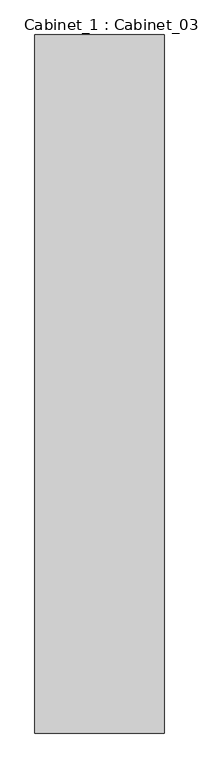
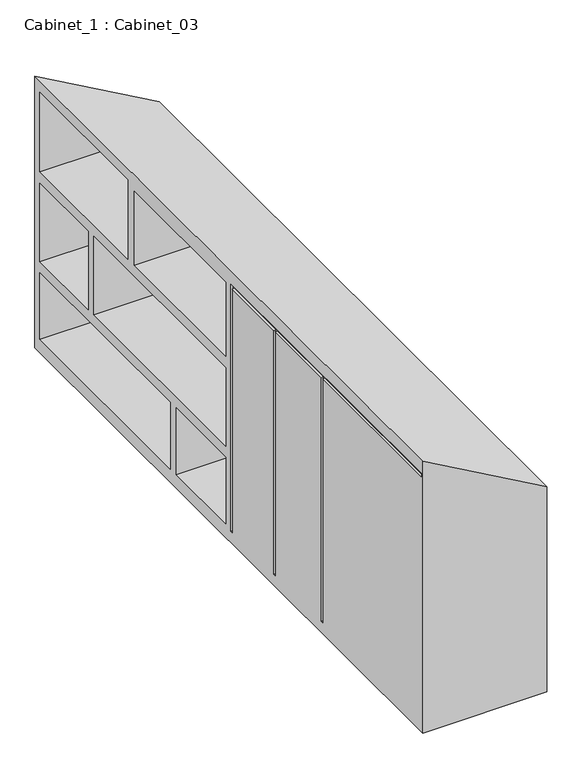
"""IFC4 building model written with IfcOpenShell, lengths in millimetres: furniture geometry, Cabinet_1 : Cabinet_03."""

from ifc_helpers import new_model, si_unit, origin, place, context, project, spatial, faceted_brep, source, transform, mapped, element, save


def cabinet_1_cabinet_03_9e102cc1(model_context):
    return source(origin(), model_context, "Body", "Brep", [
        faceted_brep([(4673.876918, 15572.4983456, 8080.0), (4124.2233206, 15572.4983456, 8080.0), (4124.2233206, 15572.4983456, 9350.9829737), (4673.876918, 15572.4983456, 9038.7362719), (4673.876918, 12600.5978406, 8080.0), (4673.876918, 12600.5978406, 9038.7362719), (4124.2233206, 12600.5978406, 9350.9829737), (4124.2233206, 12600.5978406, 8080.0), (4124.2233206, 15534.1837324, 8454.7571016), (4124.2233206, 14534.9242092, 8454.7571016), (4124.2233206, 14534.9242092, 8142.0700894), (4124.2233206, 15534.1837324, 8142.0700894), (4124.2233206, 15534.1837324, 8873.3468357), (4124.2233206, 15163.092149, 8873.3468357), (4124.2233206, 15163.092149, 8506.2975993), (4124.2233206, 15534.1837324, 8506.2975993), (4124.2233206, 15123.092149, 8873.3468357), (4124.2233206, 14111.7113185, 8873.3468357), (4124.2233206, 14111.7113185, 8506.2975993), (4124.2233206, 15123.092149, 8506.2975993), (4124.2233206, 14490.9887071, 8454.7571016), (4124.2233206, 14111.7113185, 8454.7571016), (4124.2233206, 14111.7113185, 8142.0700894), (4124.2233206, 14490.9887071, 8142.0700894), (4124.2233206, 14812.8456394, 8926.633347), (4124.2233206, 14812.8456394, 9273.3829622), (4124.2233206, 14111.7113185, 9273.3829622), (4124.2233206, 14111.7113185, 8926.633347), (4124.2233206, 15534.1837324, 8926.633347), (4124.2233206, 15534.1837324, 9298.3829622), (4124.2233206, 14859.196009, 9298.3829622), (4124.2233206, 14859.196009, 8926.633347), (4124.2233206, 14060.9887071, 8131.5557566), (4124.2233206, 14070.9887071, 8131.5557566), (4124.2233206, 14070.9887071, 9286.5557566), (4124.2233206, 12613.7546427, 9286.5557566), (4124.2233206, 12613.7546427, 9270.6119704), (4124.2233206, 13368.4887071, 9270.6119704), (4124.2233206, 13368.4887071, 8131.5557566), (4124.2233206, 13378.4887071, 8131.5557566), (4124.2233206, 13378.4887071, 9270.6119704), (4124.2233206, 13730.9887071, 9270.6119704), (4124.2233206, 13730.9887071, 8131.5557566), (4124.2233206, 13740.9887071, 8131.5557566), (4124.2233206, 13740.9887071, 9270.6119704), (4124.2233206, 14060.9887071, 9270.6119704), (4638.876918, 15534.1837324, 8454.7571016), (4638.876918, 14534.9242092, 8454.7571016), (4638.876918, 14534.9242092, 8142.0700894), (4638.876918, 15534.1837324, 8142.0700894), (4638.876918, 15534.1837324, 8873.3468357), (4638.876918, 15163.092149, 8873.3468357), (4638.876918, 15163.092149, 8506.2975993), (4638.876918, 15534.1837324, 8506.2975993), (4638.876918, 15123.092149, 8873.3468357), (4638.876918, 14111.7113185, 8873.3468357), (4638.876918, 14111.7113185, 8506.2975993), (4638.876918, 15123.092149, 8506.2975993), (4638.876918, 14490.9887071, 8454.7571016), (4638.876918, 14111.7113185, 8454.7571016), (4638.876918, 14111.7113185, 8142.0700894), (4638.876918, 14490.9887071, 8142.0700894), (4637.9358652, 14812.8456394, 8926.633347), (4637.9358652, 14812.8456394, 9011.633347), (4637.9358652, 14111.7113185, 9011.633347), (4637.9358652, 14111.7113185, 8926.633347), (4637.9358652, 15534.1837324, 8926.633347), (4637.9358652, 15534.1837324, 9036.633347), (4637.9358652, 14859.196009, 9036.633347), (4637.9358652, 14859.196009, 8926.633347), (4134.2233206, 14070.9887071, 8131.5557566), (4134.2233206, 14070.9887071, 9286.5557566), (4134.2233206, 14060.9887071, 8131.5557566), (4134.2233206, 14060.9887071, 9270.6119704), (4134.2233206, 13740.9887071, 8131.5557566), (4134.2233206, 13740.9887071, 9270.6119704), (4134.2233206, 13730.9887071, 8131.5557566), (4134.2233206, 13730.9887071, 9270.6119704), (4134.2233206, 13378.4887071, 9270.6119704), (4134.2233206, 12613.7546427, 9270.6119704), (4134.2233206, 13368.4887071, 9270.6119704), (4134.2233206, 12613.7546427, 9286.5557566), (4134.2233206, 13378.4887071, 8131.5557566), (4134.2233206, 13368.4887071, 8131.5557566)], [[[0, 1, 2, 3]], [[4, 5, 6, 7]], [[0, 3, 5, 4]], [[1, 0, 4, 7]], [[2, 1, 7, 6], [8, 9, 10, 11], [12, 13, 14, 15], [16, 17, 18, 19], [20, 21, 22, 23], [24, 25, 26, 27], [28, 29, 30, 31], [32, 33, 34, 35, 36, 37, 38, 39, 40, 41, 42, 43, 44, 45]], [[46, 47, 9, 8]], [[48, 49, 11, 10]], [[49, 46, 8, 11]], [[47, 48, 10, 9]], [[47, 46, 49, 48]], [[50, 51, 13, 12]], [[52, 53, 15, 14]], [[53, 50, 12, 15]], [[51, 52, 14, 13]], [[51, 50, 53, 52]], [[54, 55, 17, 16]], [[56, 57, 19, 18]], [[57, 54, 16, 19]], [[55, 56, 18, 17]], [[55, 54, 57, 56]], [[58, 59, 21, 20]], [[60, 61, 23, 22]], [[61, 58, 20, 23]], [[59, 60, 22, 21]], [[59, 58, 61, 60]], [[62, 63, 25, 24]], [[64, 65, 27, 26]], [[63, 62, 65, 64]], [[65, 62, 24, 27]], [[63, 64, 26, 25]], [[66, 67, 29, 28]], [[68, 69, 31, 30]], [[67, 66, 69, 68]], [[69, 66, 28, 31]], [[67, 68, 30, 29]], [[33, 70, 71, 34]], [[72, 32, 45, 73]], [[43, 74, 75, 44]], [[76, 42, 41, 77]], [[77, 41, 40, 78]], [[36, 79, 80, 37]], [[75, 73, 45, 44]], [[35, 81, 79, 36]], [[39, 82, 78, 40]], [[71, 81, 35, 34]], [[83, 38, 37, 80]], [[70, 33, 32, 72]], [[70, 72, 73, 75, 74, 76, 77, 78, 82, 83, 80, 79, 81, 71]], [[74, 43, 42, 76]], [[82, 39, 38, 83]], [[3, 2, 6, 5]]]),
    ])


if __name__ == "__main__":
    model = new_model("IFC4")
    model_context = context("Model", 3, world=origin())
    ifc_project = project(units=[si_unit("LENGTHUNIT", "METRE", prefix="MILLI")], contexts=[model_context])
    site = spatial("IfcSite", under=ifc_project)
    building = spatial("IfcBuilding", under=site)
    placement = place(None, origin())
    cabinet_1_cabinet_03_shape = cabinet_1_cabinet_03_9e102cc1(model_context)
    element("IfcFurniture", 1, ObjectType="Cabinet_1 : Cabinet_03", at=placement, inside=building, context=model_context, shape_type="MappedRepresentation", body=[
        mapped(cabinet_1_cabinet_03_shape, transform((0.0, 0.0, 0.0), x_axis=(1.0, 0.0, 0.0), y_axis=(0.0, 1.0, 0.0), z_axis=(0.0, 0.0, 1.0))),
    ])
    save(model, "model.ifc")
